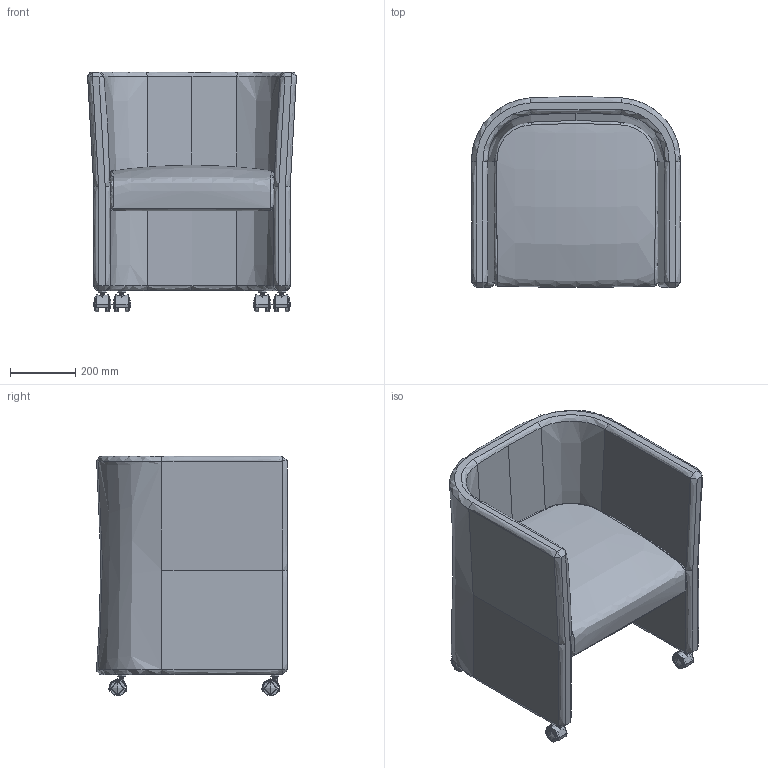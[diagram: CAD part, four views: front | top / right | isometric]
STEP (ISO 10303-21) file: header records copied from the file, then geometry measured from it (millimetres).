
FILE_DESCRIPTION(/* description */ (''),/* implementation_level */ '2;1');
FILE_NAME(/* name */ 'KINOSH~2',/* time_stamp */ '2019-07-19T11:15:16+09:00',/* author */ (''),/* organization */ (''),/* preprocessor_version */ 'ST-DEVELOPER v15',/* originating_system */ '',/* authorisation */ '');
FILE_SCHEMA (('AUTOMOTIVE_DESIGN'));
Length unit declared in the file: millimetre
Products named in the file (1): Document
Bounding box: 639.98 x 584.94 x 735 mm (x, y, z)
Volume: 47894.9 mm3; surface area: 2993212.9 mm2
Topology: 16 solids, 26 shells, 302 faces, 690 edges, 394 vertices
Faces by surface type: bspline 231, plane 71
Entity records: 24115 total; most frequent: CARTESIAN_POINT 20222, ORIENTED_EDGE 1262, EDGE_CURVE 662, VERTEX_POINT 394, B_SPLINE_CURVE_WITH_KNOTS 320, EDGE_LOOP 314, ADVANCED_FACE 302, FACE_OUTER_BOUND 302
